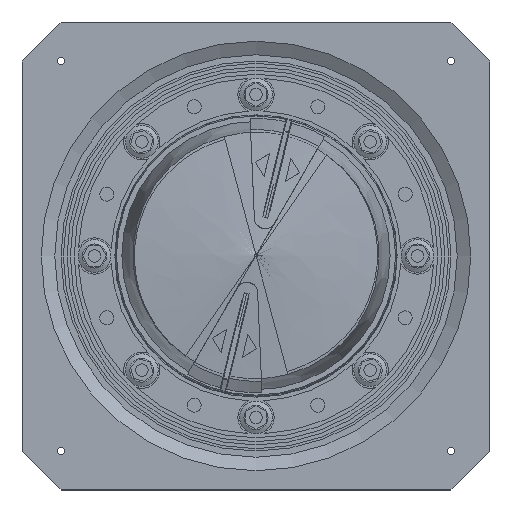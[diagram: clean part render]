
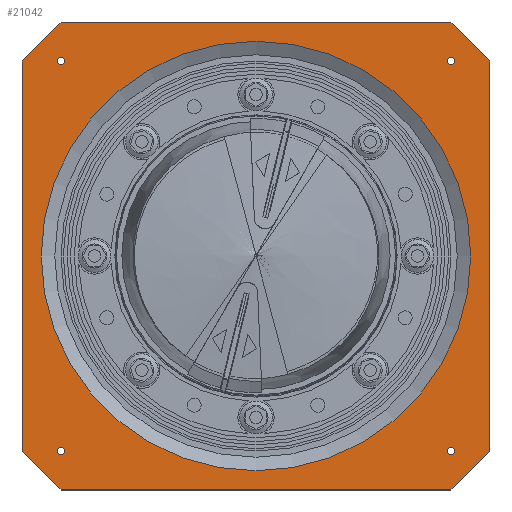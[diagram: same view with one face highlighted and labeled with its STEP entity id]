
A CAD part, top view. The second image highlights one B-rep face of the part: STEP entity #21042.
In plain terms, the highlighted planar face has unit normal (0, 0, 1).
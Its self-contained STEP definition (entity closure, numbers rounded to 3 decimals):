
#671=FACE_BOUND($,#3540,.T.);
#672=FACE_BOUND($,#3541,.T.);
#673=FACE_BOUND($,#3542,.T.);
#674=FACE_BOUND($,#3543,.T.);
#675=FACE_BOUND($,#3544,.T.);
#676=FACE_BOUND($,#3545,.T.);
#1414=PLANE($,#22435);
#3540=EDGE_LOOP($,(#14855));
#3541=EDGE_LOOP($,(#14856));
#3542=EDGE_LOOP($,(#14857));
#3543=EDGE_LOOP($,(#14858));
#3544=EDGE_LOOP($,(#14859,#14860,#14861,#14862,#14863,#14864,#14865,#14866));
#3545=EDGE_LOOP($,(#14867));
#5210=CIRCLE($,#22406,2.5);
#5212=CIRCLE($,#22409,2.5);
#5214=CIRCLE($,#22412,2.5);
#5216=CIRCLE($,#22415,2.5);
#5222=CIRCLE($,#22434,137.66);
#6222=LINE($,#31584,#7949);
#6225=LINE($,#31590,#7952);
#6228=LINE($,#31596,#7955);
#6231=LINE($,#31602,#7958);
#6234=LINE($,#31608,#7961);
#6238=LINE($,#31615,#7965);
#6241=LINE($,#31621,#7968);
#6243=LINE($,#31624,#7970);
#7949=VECTOR($,#25003,35.355);
#7952=VECTOR($,#25008,250.);
#7955=VECTOR($,#25013,35.355);
#7958=VECTOR($,#25018,250.);
#7961=VECTOR($,#25023,35.355);
#7965=VECTOR($,#25029,250.);
#7968=VECTOR($,#25034,35.355);
#7970=VECTOR($,#25038,250.);
#9715=VERTEX_POINT($,#31560);
#9717=VERTEX_POINT($,#31565);
#9719=VERTEX_POINT($,#31570);
#9721=VERTEX_POINT($,#31575);
#9724=VERTEX_POINT($,#31581);
#9725=VERTEX_POINT($,#31583);
#9727=VERTEX_POINT($,#31589);
#9729=VERTEX_POINT($,#31595);
#9731=VERTEX_POINT($,#31601);
#9733=VERTEX_POINT($,#31607);
#9735=VERTEX_POINT($,#31613);
#9737=VERTEX_POINT($,#31619);
#9743=VERTEX_POINT($,#31640);
#11736=EDGE_CURVE($,#9715,#9715,#5210,.T.);
#11738=EDGE_CURVE($,#9717,#9717,#5212,.T.);
#11740=EDGE_CURVE($,#9719,#9719,#5214,.T.);
#11742=EDGE_CURVE($,#9721,#9721,#5216,.T.);
#11745=EDGE_CURVE($,#9725,#9724,#6222,.T.);
#11748=EDGE_CURVE($,#9727,#9725,#6225,.T.);
#11751=EDGE_CURVE($,#9729,#9727,#6228,.T.);
#11754=EDGE_CURVE($,#9731,#9729,#6231,.T.);
#11757=EDGE_CURVE($,#9733,#9731,#6234,.T.);
#11761=EDGE_CURVE($,#9724,#9735,#6238,.T.);
#11764=EDGE_CURVE($,#9735,#9737,#6241,.T.);
#11766=EDGE_CURVE($,#9737,#9733,#6243,.T.);
#11772=EDGE_CURVE($,#9743,#9743,#5222,.T.);
#14855=ORIENTED_EDGE($,*,*,#11736,.T.);
#14856=ORIENTED_EDGE($,*,*,#11738,.T.);
#14857=ORIENTED_EDGE($,*,*,#11740,.T.);
#14858=ORIENTED_EDGE($,*,*,#11742,.T.);
#14859=ORIENTED_EDGE($,*,*,#11757,.T.);
#14860=ORIENTED_EDGE($,*,*,#11754,.T.);
#14861=ORIENTED_EDGE($,*,*,#11751,.T.);
#14862=ORIENTED_EDGE($,*,*,#11748,.T.);
#14863=ORIENTED_EDGE($,*,*,#11745,.T.);
#14864=ORIENTED_EDGE($,*,*,#11761,.T.);
#14865=ORIENTED_EDGE($,*,*,#11764,.T.);
#14866=ORIENTED_EDGE($,*,*,#11766,.T.);
#14867=ORIENTED_EDGE($,*,*,#11772,.T.);
#21042=ADVANCED_FACE($,(#671,#672,#673,#674,#675,#676),#1414,.T.);
#22406=AXIS2_PLACEMENT_3D($,#31561,#24979,#24980);
#22409=AXIS2_PLACEMENT_3D($,#31566,#24985,#24986);
#22412=AXIS2_PLACEMENT_3D($,#31571,#24991,#24992);
#22415=AXIS2_PLACEMENT_3D($,#31576,#24997,#24998);
#22434=AXIS2_PLACEMENT_3D($,#31641,#25059,#25060);
#22435=AXIS2_PLACEMENT_3D($,#31642,#25061,#25062);
#24979=DIRECTION('center_axis',(0.,0.,-1.));
#24980=DIRECTION('ref_axis',(-1.,0.,0.));
#24985=DIRECTION('center_axis',(0.,0.,-1.));
#24986=DIRECTION('ref_axis',(-1.,0.,0.));
#24991=DIRECTION('center_axis',(0.,0.,-1.));
#24992=DIRECTION('ref_axis',(-1.,0.,0.));
#24997=DIRECTION('center_axis',(0.,0.,-1.));
#24998=DIRECTION('ref_axis',(-1.,0.,0.));
#25003=DIRECTION($,(-0.707,0.707,0.));
#25008=DIRECTION($,(0.,1.,0.));
#25013=DIRECTION($,(0.707,0.707,0.));
#25018=DIRECTION($,(1.,0.,0.));
#25023=DIRECTION($,(0.707,-0.707,0.));
#25029=DIRECTION($,(-1.,0.,0.));
#25034=DIRECTION($,(-0.707,-0.707,0.));
#25038=DIRECTION($,(0.,-1.,0.));
#25059=DIRECTION('center_axis',(0.,0.,-1.));
#25060=DIRECTION('ref_axis',(0.,1.,0.));
#25061=DIRECTION('center_axis',(0.,0.,1.));
#25062=DIRECTION('ref_axis',(1.,0.,0.));
#31560=CARTESIAN_POINT('',(127.5,125.,0.));
#31561=CARTESIAN_POINT('Origin',(125.,125.,0.));
#31565=CARTESIAN_POINT('',(127.5,-125.,0.));
#31566=CARTESIAN_POINT('Origin',(125.,-125.,0.));
#31570=CARTESIAN_POINT('',(-122.5,125.,0.));
#31571=CARTESIAN_POINT('Origin',(-125.,125.,0.));
#31575=CARTESIAN_POINT('',(-122.5,-125.,0.));
#31576=CARTESIAN_POINT('Origin',(-125.,-125.,0.));
#31581=CARTESIAN_POINT('',(125.,150.,0.));
#31583=CARTESIAN_POINT('',(150.,125.,0.));
#31584=CARTESIAN_POINT($,(95.292,179.708,0.));
#31589=CARTESIAN_POINT('',(150.,-125.,0.));
#31590=CARTESIAN_POINT($,(150.,34.415,0.));
#31595=CARTESIAN_POINT('',(125.,-150.,0.));
#31596=CARTESIAN_POINT($,(179.708,-95.292,0.));
#31601=CARTESIAN_POINT('',(-125.,-150.,0.));
#31602=CARTESIAN_POINT($,(-62.5,-150.,0.));
#31607=CARTESIAN_POINT('',(-150.,-125.,0.));
#31608=CARTESIAN_POINT($,(-192.208,-82.792,0.));
#31613=CARTESIAN_POINT('',(-125.,150.,0.));
#31615=CARTESIAN_POINT($,(62.5,150.,0.));
#31619=CARTESIAN_POINT('',(-150.,125.,0.));
#31621=CARTESIAN_POINT($,(-82.792,192.208,0.));
#31624=CARTESIAN_POINT($,(-150.,159.415,0.));
#31640=CARTESIAN_POINT('',(0.,137.66,0.));
#31641=CARTESIAN_POINT('Origin',(0.,0.,0.));
#31642=CARTESIAN_POINT('Origin',(0.,193.83,0.));
